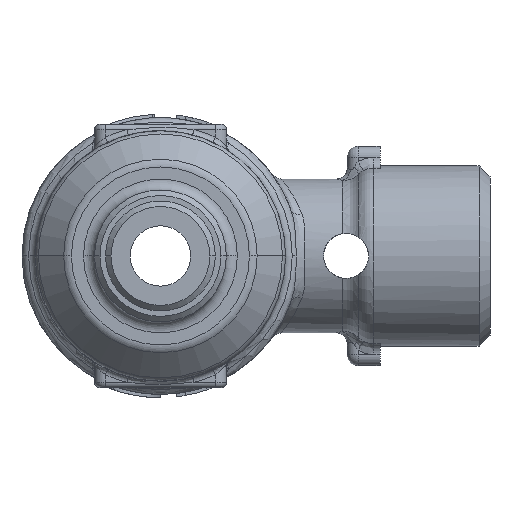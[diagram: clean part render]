
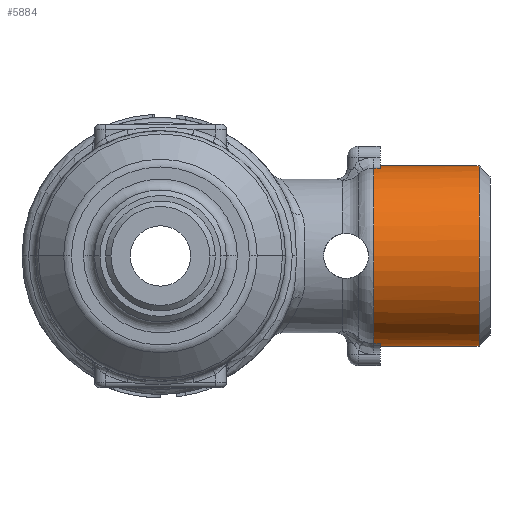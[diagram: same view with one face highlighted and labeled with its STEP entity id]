
A CAD part, left-side view. The second image highlights one B-rep face of the part: STEP entity #5884.
In plain terms, the highlighted cylindrical face has radius 8.2 mm (diameter 16.4 mm), a partial arc.
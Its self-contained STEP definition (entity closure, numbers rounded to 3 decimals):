
#13 = CARTESIAN_POINT ( 'NONE',  ( -10.4, -30., 8.2 ) ) ;
#446 = DIRECTION ( 'NONE',  ( 0., 1., 0. ) ) ;
#1031 = DIRECTION ( 'NONE',  ( 0., 0., 1. ) ) ;
#1051 = DIRECTION ( 'NONE',  ( 0., -1., 0. ) ) ;
#1082 = CARTESIAN_POINT ( 'NONE',  ( -10.4, -20., 0. ) ) ;
#1396 = ORIENTED_EDGE ( 'NONE', *, *, #13860, .T. ) ;
#1411 = ORIENTED_EDGE ( 'NONE', *, *, #14138, .T. ) ;
#1710 = AXIS2_PLACEMENT_3D ( 'NONE', #7031, #6645, #6531 ) ;
#2080 = VECTOR ( 'NONE', #12220, 1000. ) ;
#2243 = CIRCLE ( 'NONE', #1710, 8.2 ) ;
#3711 = AXIS2_PLACEMENT_3D ( 'NONE', #13497, #10890, #13440 ) ;
#4058 = CARTESIAN_POINT ( 'NONE',  ( -12.183, -19.428, 8.004 ) ) ;
#4833 = DIRECTION ( 'NONE',  ( 0., 0., 1. ) ) ;
#4850 = DIRECTION ( 'NONE',  ( 0., 1., 0. ) ) ;
#4864 = LINE ( 'NONE', #10827, #10812 ) ;
#4870 = CARTESIAN_POINT ( 'NONE',  ( -10.4, -19.428, 0. ) ) ;
#5081 = CARTESIAN_POINT ( 'NONE',  ( -10.4, -29., 8.2 ) ) ;
#5142 = VECTOR ( 'NONE', #446, 1000. ) ;
#5352 = VERTEX_POINT ( 'NONE', #11079 ) ;
#5629 = AXIS2_PLACEMENT_3D ( 'NONE', #1082, #1051, #1031 ) ;
#5724 = CARTESIAN_POINT ( 'NONE',  ( -10.4, -20., -8.2 ) ) ;
#5817 = CARTESIAN_POINT ( 'NONE',  ( -12.183, -20., -8.004 ) ) ;
#5884 = ADVANCED_FACE ( 'NONE', ( #6986 ), #15257, .T. ) ;
#6080 = ORIENTED_EDGE ( 'NONE', *, *, #8377, .T. ) ;
#6149 = VERTEX_POINT ( 'NONE', #9872 ) ;
#6531 = DIRECTION ( 'NONE',  ( 0., 0., 1. ) ) ;
#6645 = DIRECTION ( 'NONE',  ( 0., -1., 0. ) ) ;
#6986 = FACE_OUTER_BOUND ( 'NONE', #11503, .T. ) ;
#7031 = CARTESIAN_POINT ( 'NONE',  ( -10.4, -20., 0. ) ) ;
#7456 = CIRCLE ( 'NONE', #15165, 8.2 ) ;
#7663 = ORIENTED_EDGE ( 'NONE', *, *, #13886, .T. ) ;
#7800 = VERTEX_POINT ( 'NONE', #5081 ) ;
#8261 = AXIS2_PLACEMENT_3D ( 'NONE', #15102, #15075, #15064 ) ;
#8377 = EDGE_CURVE ( 'NONE', #10796, #11601, #2243, .T. ) ;
#8969 = LINE ( 'NONE', #13, #5142 ) ;
#9393 = VERTEX_POINT ( 'NONE', #13937 ) ;
#9565 = ORIENTED_EDGE ( 'NONE', *, *, #10244, .F. ) ;
#9872 = CARTESIAN_POINT ( 'NONE',  ( -10.4, -29., -8.2 ) ) ;
#10244 = EDGE_CURVE ( 'NONE', #9393, #12300, #7456, .T. ) ;
#10450 = DIRECTION ( 'NONE',  ( 0., -1., 0. ) ) ;
#10625 = EDGE_CURVE ( 'NONE', #7800, #5352, #8969, .T. ) ;
#10796 = VERTEX_POINT ( 'NONE', #5817 ) ;
#10812 = VECTOR ( 'NONE', #10450, 1000. ) ;
#10827 = CARTESIAN_POINT ( 'NONE',  ( -12.183, -30., -8.004 ) ) ;
#10890 = DIRECTION ( 'NONE',  ( 0., 1., 0. ) ) ;
#11079 = CARTESIAN_POINT ( 'NONE',  ( -10.4, -20., 8.2 ) ) ;
#11503 = EDGE_LOOP ( 'NONE', ( #14503, #1411, #12802, #13944, #1396, #9565, #7663, #6080 ) ) ;
#11601 = VERTEX_POINT ( 'NONE', #5724 ) ;
#12079 = EDGE_CURVE ( 'NONE', #6149, #11601, #13347, .T. ) ;
#12220 = DIRECTION ( 'NONE',  ( 0., 1., 0. ) ) ;
#12298 = CARTESIAN_POINT ( 'NONE',  ( -12.183, -30., 8.004 ) ) ;
#12300 = VERTEX_POINT ( 'NONE', #4058 ) ;
#12644 = VERTEX_POINT ( 'NONE', #13631 ) ;
#12802 = ORIENTED_EDGE ( 'NONE', *, *, #10625, .T. ) ;
#12971 = VECTOR ( 'NONE', #14792, 1000. ) ;
#13347 = LINE ( 'NONE', #14930, #12971 ) ;
#13440 = DIRECTION ( 'NONE',  ( 0., 0., 1. ) ) ;
#13497 = CARTESIAN_POINT ( 'NONE',  ( -10.4, -30., 0. ) ) ;
#13631 = CARTESIAN_POINT ( 'NONE',  ( -12.183, -20., 8.004 ) ) ;
#13860 = EDGE_CURVE ( 'NONE', #12644, #12300, #14862, .T. ) ;
#13886 = EDGE_CURVE ( 'NONE', #9393, #10796, #4864, .T. ) ;
#13937 = CARTESIAN_POINT ( 'NONE',  ( -12.183, -19.428, -8.004 ) ) ;
#13944 = ORIENTED_EDGE ( 'NONE', *, *, #15597, .T. ) ;
#14138 = EDGE_CURVE ( 'NONE', #6149, #7800, #14251, .T. ) ;
#14251 = CIRCLE ( 'NONE', #8261, 8.2 ) ;
#14503 = ORIENTED_EDGE ( 'NONE', *, *, #12079, .F. ) ;
#14792 = DIRECTION ( 'NONE',  ( 0., 1., 0. ) ) ;
#14862 = LINE ( 'NONE', #12298, #2080 ) ;
#14930 = CARTESIAN_POINT ( 'NONE',  ( -10.4, -30., -8.2 ) ) ;
#15064 = DIRECTION ( 'NONE',  ( 0., 0., 1. ) ) ;
#15075 = DIRECTION ( 'NONE',  ( 0., 1., 0. ) ) ;
#15102 = CARTESIAN_POINT ( 'NONE',  ( -10.4, -29., 0. ) ) ;
#15147 = CIRCLE ( 'NONE', #5629, 8.2 ) ;
#15165 = AXIS2_PLACEMENT_3D ( 'NONE', #4870, #4850, #4833 ) ;
#15257 = CYLINDRICAL_SURFACE ( 'NONE', #3711, 8.2 ) ;
#15597 = EDGE_CURVE ( 'NONE', #5352, #12644, #15147, .T. ) ;
